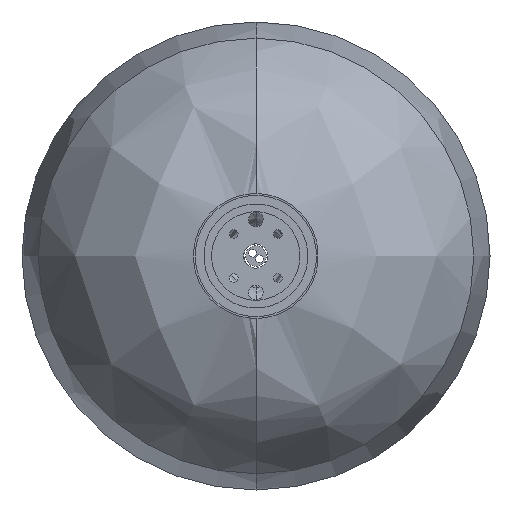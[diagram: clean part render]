
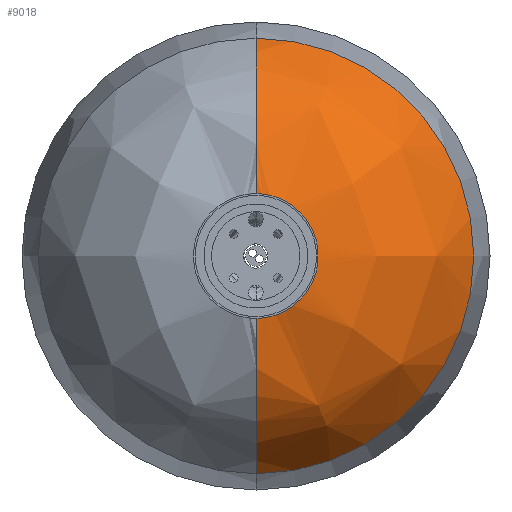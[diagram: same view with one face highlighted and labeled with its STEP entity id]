
A CAD part, front view. The second image highlights one B-rep face of the part: STEP entity #9018.
In plain terms, the highlighted free-form (B-spline) face has degree [3, 3] with [4, 4] control points.
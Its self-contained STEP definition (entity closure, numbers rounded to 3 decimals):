
#402 = AXIS2_PLACEMENT_3D ( 'NONE', #8496, #8525, #8501 ) ;
#845 = CIRCLE ( 'NONE', #1560, 62.812 ) ;
#1173 = EDGE_CURVE ( 'NONE', #11377, #11401, #5457, .T. ) ;
#1187 = EDGE_CURVE ( 'NONE', #11396, #11357, #5469, .T. ) ;
#1265 = EDGE_CURVE ( 'NONE', #11357, #11401, #1293, .T. ) ;
#1266 = EDGE_CURVE ( 'NONE', #11396, #11377, #845, .T. ) ;
#1293 =( BOUNDED_CURVE ( )  B_SPLINE_CURVE ( 3, ( #8370, #8353, #8352, #8351 ),
 .UNSPECIFIED., .F., .T. ) 
 B_SPLINE_CURVE_WITH_KNOTS ( ( 4, 4 ),
 ( 0., 1. ),
 .UNSPECIFIED. ) 
 CURVE ( )  GEOMETRIC_REPRESENTATION_ITEM ( )  RATIONAL_B_SPLINE_CURVE ( ( 1., 0.333, 0.333, 1. ) ) 
 REPRESENTATION_ITEM ( '' )  );
#1504 = AXIS2_PLACEMENT_3D ( 'NONE', #8294, #8302, #8177 ) ;
#1560 = AXIS2_PLACEMENT_3D ( 'NONE', #8349, #8348, #8347 ) ;
#4941 = CARTESIAN_POINT ( 'NONE',  ( 0., -135., 15. ) ) ;
#4961 = CARTESIAN_POINT ( 'NONE',  ( 0., -101.747, -62.812 ) ) ;
#4978 = CARTESIAN_POINT ( 'NONE',  ( 0., -101.747, 62.812 ) ) ;
#4983 = CARTESIAN_POINT ( 'NONE',  ( 0., -135., -15. ) ) ;
#5457 = CIRCLE ( 'NONE', #402, 51. ) ;
#5469 = CIRCLE ( 'NONE', #1504, 51. ) ;
#6001 =( BOUNDED_SURFACE ( )  B_SPLINE_SURFACE ( 3, 3, ( 
 ( #6485, #6507, #6493, #6483 ),
 ( #6482, #6480, #6479, #6478 ),
 ( #6477, #6476, #6475, #6474 ),
 ( #6473, #6472, #6471, #6470 ) ),
 .UNSPECIFIED., .F., .F., .T. ) 
 B_SPLINE_SURFACE_WITH_KNOTS ( ( 4, 4 ),
 ( 4, 4 ),
 ( 0., 1. ),
 ( 0., 1. ),
 .UNSPECIFIED. ) 
 GEOMETRIC_REPRESENTATION_ITEM ( )  RATIONAL_B_SPLINE_SURFACE ( (
 ( 1., 0.333, 0.333, 1.),
 ( 0.881, 0.294, 0.294, 0.881),
 ( 0.881, 0.294, 0.294, 0.881),
 ( 1., 0.333, 0.333, 1.) ) ) 
 REPRESENTATION_ITEM ( '' )  SURFACE ( )  );
#6470 = CARTESIAN_POINT ( 'NONE',  ( 0., -135., -15. ) ) ;
#6471 = CARTESIAN_POINT ( 'NONE',  ( 30., -135., -15. ) ) ;
#6472 = CARTESIAN_POINT ( 'NONE',  ( 30., -135., 15. ) ) ;
#6473 = CARTESIAN_POINT ( 'NONE',  ( 0., -135., 15. ) ) ;
#6474 = CARTESIAN_POINT ( 'NONE',  ( 0., -135., -37.044 ) ) ;
#6475 = CARTESIAN_POINT ( 'NONE',  ( 74.088, -135., -37.044 ) ) ;
#6476 = CARTESIAN_POINT ( 'NONE',  ( 74.088, -135., 37.044 ) ) ;
#6477 = CARTESIAN_POINT ( 'NONE',  ( 0., -135., 37.044 ) ) ;
#6478 = CARTESIAN_POINT ( 'NONE',  ( 0., -122.414, -55.142 ) ) ;
#6479 = CARTESIAN_POINT ( 'NONE',  ( 110.283, -122.414, -55.142 ) ) ;
#6480 = CARTESIAN_POINT ( 'NONE',  ( 110.283, -122.414, 55.142 ) ) ;
#6482 = CARTESIAN_POINT ( 'NONE',  ( 0., -122.414, 55.142 ) ) ;
#6483 = CARTESIAN_POINT ( 'NONE',  ( 0., -101.747, -62.812 ) ) ;
#6485 = CARTESIAN_POINT ( 'NONE',  ( 0., -101.747, 62.812 ) ) ;
#6493 = CARTESIAN_POINT ( 'NONE',  ( 125.625, -101.747, -62.812 ) ) ;
#6507 = CARTESIAN_POINT ( 'NONE',  ( 125.625, -101.747, 62.812 ) ) ;
#8177 = DIRECTION ( 'NONE',  ( 0., 0., 1. ) ) ;
#8294 = CARTESIAN_POINT ( 'NONE',  ( 0., -84., 15. ) ) ;
#8302 = DIRECTION ( 'NONE',  ( 1., 0., 0. ) ) ;
#8347 = DIRECTION ( 'NONE',  ( 0., 0., 1. ) ) ;
#8348 = DIRECTION ( 'NONE',  ( 0., 1., 0. ) ) ;
#8349 = CARTESIAN_POINT ( 'NONE',  ( 0., -101.747, 0. ) ) ;
#8351 = CARTESIAN_POINT ( 'NONE',  ( 0., -135., -15. ) ) ;
#8352 = CARTESIAN_POINT ( 'NONE',  ( 30., -135., -15. ) ) ;
#8353 = CARTESIAN_POINT ( 'NONE',  ( 30., -135., 15. ) ) ;
#8370 = CARTESIAN_POINT ( 'NONE',  ( 0., -135., 15. ) ) ;
#8496 = CARTESIAN_POINT ( 'NONE',  ( 0., -84., -15. ) ) ;
#8501 = DIRECTION ( 'NONE',  ( 0., 0., -1. ) ) ;
#8525 = DIRECTION ( 'NONE',  ( -1., 0., 0. ) ) ;
#9018 = ADVANCED_FACE ( 'NONE', ( #11546 ), #6001, .T. ) ;
#9206 = ORIENTED_EDGE ( 'NONE', *, *, #1173, .F. ) ;
#9207 = ORIENTED_EDGE ( 'NONE', *, *, #1266, .F. ) ;
#9208 = ORIENTED_EDGE ( 'NONE', *, *, #1187, .T. ) ;
#9209 = ORIENTED_EDGE ( 'NONE', *, *, #1265, .T. ) ;
#9231 = EDGE_LOOP ( 'NONE', ( #9206, #9207, #9208, #9209 ) ) ;
#11357 = VERTEX_POINT ( 'NONE', #4941 ) ;
#11377 = VERTEX_POINT ( 'NONE', #4961 ) ;
#11396 = VERTEX_POINT ( 'NONE', #4978 ) ;
#11401 = VERTEX_POINT ( 'NONE', #4983 ) ;
#11546 = FACE_OUTER_BOUND ( 'NONE', #9231, .T. ) ;
